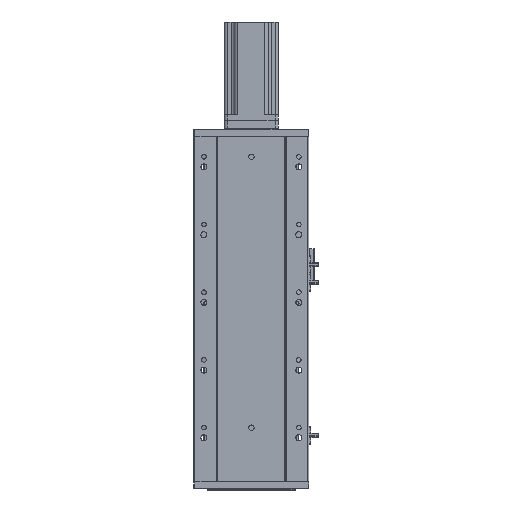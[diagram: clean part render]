
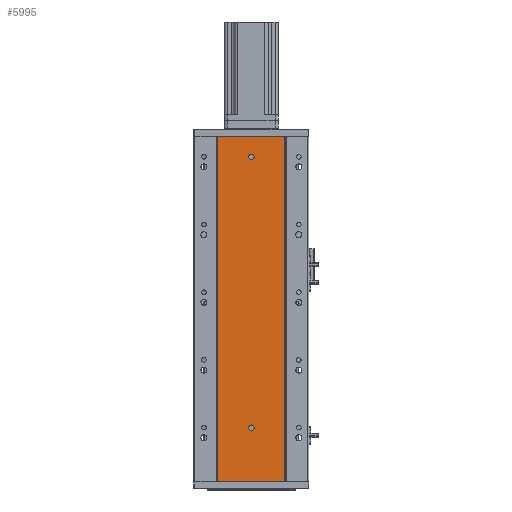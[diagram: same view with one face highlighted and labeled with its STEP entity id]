
A CAD part, front view. The second image highlights one B-rep face of the part: STEP entity #5995.
In plain terms, the highlighted planar face has unit normal (0, -1, 0).
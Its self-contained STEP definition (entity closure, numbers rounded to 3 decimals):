
#849 = DIRECTION ( 'NONE',  ( 0., -1., 0. ) ) ;
#3206 = CARTESIAN_POINT ( 'NONE',  ( 185.97, 79.476, 0. ) ) ;
#3746 = PLANE ( 'NONE',  #8593 ) ;
#3873 = CARTESIAN_POINT ( 'NONE',  ( 0., 79.476, 0. ) ) ;
#4575 = DIRECTION ( 'NONE',  ( 1., 0., 0. ) ) ;
#5626 = ORIENTED_EDGE ( 'NONE', *, *, #37635, .F. ) ;
#5995 = ADVANCED_FACE ( 'NONE', ( #18773, #43064, #63400 ), #3746, .F. ) ;
#6021 = CARTESIAN_POINT ( 'NONE',  ( 86.97, 79.476, 0. ) ) ;
#7896 = DIRECTION ( 'NONE',  ( 0., 0., -1. ) ) ;
#7991 = CARTESIAN_POINT ( 'NONE',  ( 136.47, 79.476, 480. ) ) ;
#8478 = VERTEX_POINT ( 'NONE', #28787 ) ;
#8593 = AXIS2_PLACEMENT_3D ( 'NONE', #45287, #9211, #29851 ) ;
#9211 = DIRECTION ( 'NONE',  ( 0., 1., 0. ) ) ;
#9457 = EDGE_CURVE ( 'NONE', #39749, #53600, #24723, .T. ) ;
#9909 = VERTEX_POINT ( 'NONE', #6021 ) ;
#13820 = CARTESIAN_POINT ( 'NONE',  ( 185.97, 79.476, 510. ) ) ;
#14095 = CIRCLE ( 'NONE', #42891, 4. ) ;
#17134 = CARTESIAN_POINT ( 'NONE',  ( 136.47, 79.476, 76. ) ) ;
#17635 = EDGE_CURVE ( 'NONE', #52670, #58293, #59313, .T. ) ;
#18773 = FACE_BOUND ( 'NONE', #55982, .T. ) ;
#18908 = ORIENTED_EDGE ( 'NONE', *, *, #23316, .T. ) ;
#19798 = ORIENTED_EDGE ( 'NONE', *, *, #58261, .F. ) ;
#20884 = AXIS2_PLACEMENT_3D ( 'NONE', #32405, #849, #38079 ) ;
#21830 = CARTESIAN_POINT ( 'NONE',  ( 136.47, 79.476, 84. ) ) ;
#21978 = LINE ( 'NONE', #3873, #25257 ) ;
#23316 = EDGE_CURVE ( 'NONE', #8478, #9909, #61531, .T. ) ;
#23459 = DIRECTION ( 'NONE',  ( 1., 0., 0. ) ) ;
#24723 = CIRCLE ( 'NONE', #49657, 4. ) ;
#25084 = VECTOR ( 'NONE', #23459, 1000. ) ;
#25257 = VECTOR ( 'NONE', #4575, 1000. ) ;
#27631 = ORIENTED_EDGE ( 'NONE', *, *, #9457, .F. ) ;
#28250 = CARTESIAN_POINT ( 'NONE',  ( 185.97, 79.476, 510. ) ) ;
#28725 = AXIS2_PLACEMENT_3D ( 'NONE', #7991, #38625, #59948 ) ;
#28787 = CARTESIAN_POINT ( 'NONE',  ( 86.97, 79.476, 510. ) ) ;
#29422 = CARTESIAN_POINT ( 'NONE',  ( 185.97, 79.476, 0. ) ) ;
#29637 = ORIENTED_EDGE ( 'NONE', *, *, #53382, .F. ) ;
#29851 = DIRECTION ( 'NONE',  ( 0., 0., 1. ) ) ;
#31802 = EDGE_LOOP ( 'NONE', ( #35157, #29637, #5626, #18908 ) ) ;
#32284 = CIRCLE ( 'NONE', #20884, 4. ) ;
#32405 = CARTESIAN_POINT ( 'NONE',  ( 136.47, 79.476, 80. ) ) ;
#32562 = CARTESIAN_POINT ( 'NONE',  ( 86.97, 79.476, 340. ) ) ;
#33476 = VERTEX_POINT ( 'NONE', #28250 ) ;
#35157 = ORIENTED_EDGE ( 'NONE', *, *, #43539, .T. ) ;
#35620 = EDGE_LOOP ( 'NONE', ( #27631, #19798 ) ) ;
#37635 = EDGE_CURVE ( 'NONE', #8478, #33476, #43801, .T. ) ;
#37964 = DIRECTION ( 'NONE',  ( 0., 0., -1. ) ) ;
#38079 = DIRECTION ( 'NONE',  ( 0., 0., -1. ) ) ;
#38285 = VERTEX_POINT ( 'NONE', #3206 ) ;
#38625 = DIRECTION ( 'NONE',  ( 0., -1., 0. ) ) ;
#39749 = VERTEX_POINT ( 'NONE', #17134 ) ;
#39870 = CARTESIAN_POINT ( 'NONE',  ( 136.47, 79.476, 80. ) ) ;
#42891 = AXIS2_PLACEMENT_3D ( 'NONE', #42932, #64238, #37964 ) ;
#42932 = CARTESIAN_POINT ( 'NONE',  ( 136.47, 79.476, 480. ) ) ;
#43064 = FACE_BOUND ( 'NONE', #35620, .T. ) ;
#43539 = EDGE_CURVE ( 'NONE', #9909, #38285, #21978, .T. ) ;
#43801 = LINE ( 'NONE', #49308, #25084 ) ;
#44494 = ORIENTED_EDGE ( 'NONE', *, *, #17635, .F. ) ;
#45287 = CARTESIAN_POINT ( 'NONE',  ( 0., 79.476, 510. ) ) ;
#46464 = B_SPLINE_CURVE_WITH_KNOTS ( 'NONE', 3,
 ( #13820, #55279, #60521, #29422 ),
 .UNSPECIFIED., .F., .F.,
 ( 4, 4 ),
 ( 0., 1. ),
 .UNSPECIFIED. ) ;
#48272 = CARTESIAN_POINT ( 'NONE',  ( 136.47, 79.476, 476. ) ) ;
#48588 = CARTESIAN_POINT ( 'NONE',  ( 136.47, 79.476, 484. ) ) ;
#49308 = CARTESIAN_POINT ( 'NONE',  ( 0., 79.476, 510. ) ) ;
#49622 = DIRECTION ( 'NONE',  ( 0., -1., 0. ) ) ;
#49657 = AXIS2_PLACEMENT_3D ( 'NONE', #39870, #49622, #7896 ) ;
#52670 = VERTEX_POINT ( 'NONE', #48588 ) ;
#53382 = EDGE_CURVE ( 'NONE', #33476, #38285, #46464, .T. ) ;
#53600 = VERTEX_POINT ( 'NONE', #21830 ) ;
#55279 = CARTESIAN_POINT ( 'NONE',  ( 185.97, 79.476, 340. ) ) ;
#55982 = EDGE_LOOP ( 'NONE', ( #65070, #44494 ) ) ;
#56385 = CARTESIAN_POINT ( 'NONE',  ( 86.97, 79.476, 510. ) ) ;
#58261 = EDGE_CURVE ( 'NONE', #53600, #39749, #32284, .T. ) ;
#58293 = VERTEX_POINT ( 'NONE', #48272 ) ;
#58647 = CARTESIAN_POINT ( 'NONE',  ( 86.97, 79.476, 0. ) ) ;
#59313 = CIRCLE ( 'NONE', #28725, 4. ) ;
#59948 = DIRECTION ( 'NONE',  ( 0., 0., -1. ) ) ;
#60521 = CARTESIAN_POINT ( 'NONE',  ( 185.97, 79.476, 170. ) ) ;
#61531 = B_SPLINE_CURVE_WITH_KNOTS ( 'NONE', 3,
 ( #56385, #32562, #63635, #58647 ),
 .UNSPECIFIED., .F., .F.,
 ( 4, 4 ),
 ( 0., 1. ),
 .UNSPECIFIED. ) ;
#63400 = FACE_OUTER_BOUND ( 'NONE', #31802, .T. ) ;
#63635 = CARTESIAN_POINT ( 'NONE',  ( 86.97, 79.476, 170. ) ) ;
#64238 = DIRECTION ( 'NONE',  ( 0., -1., 0. ) ) ;
#65070 = ORIENTED_EDGE ( 'NONE', *, *, #65622, .F. ) ;
#65622 = EDGE_CURVE ( 'NONE', #58293, #52670, #14095, .T. ) ;
